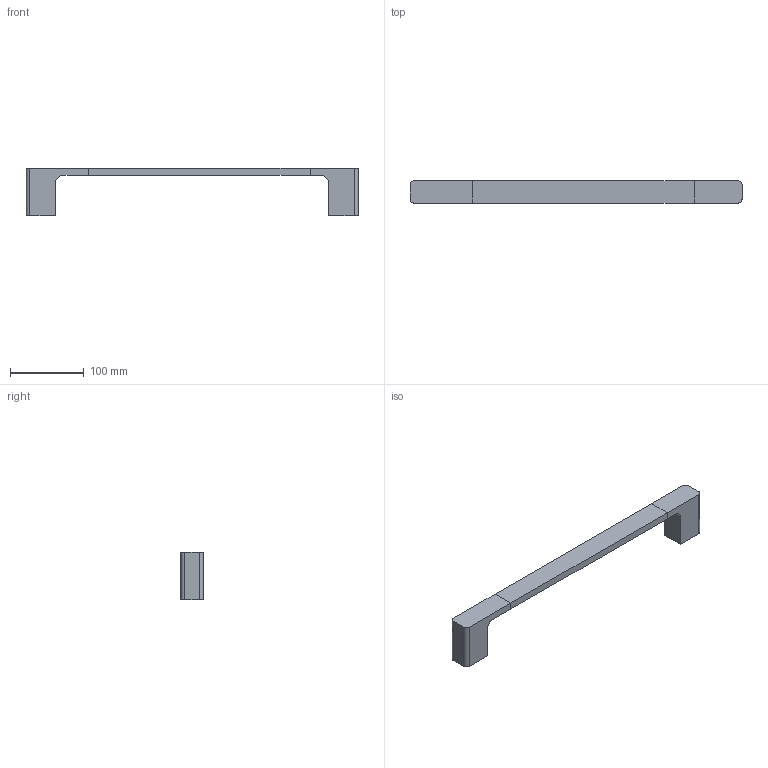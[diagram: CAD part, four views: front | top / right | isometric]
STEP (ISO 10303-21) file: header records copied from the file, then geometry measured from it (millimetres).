
FILE_DESCRIPTION(('FreeCAD Model'),'2;1');
FILE_NAME('Open CASCADE Shape Model','2024-08-10T18:53:45',('Author'),( ''),'Open CASCADE STEP processor 7.6','FreeCAD','Unknown');
FILE_SCHEMA(('AUTOMOTIVE_DESIGN { 1 0 10303 214 1 1 1 1 }'));
Length unit declared in the file: millimetre
Products named in the file (4): TopLevelAssembly; Połączona geometria bryłowa; Połączona geometria bryłowa001; Wyciąganie001
Assembly tree (3 placements, depth 2):
  TopLevelAssembly
    Połączona geometria bryłowa
    Połączona geometria bryłowa001
    Wyciąganie001
Bounding box: 450 x 30 x 65 mm (x, y, z)
Volume: 266892.7 mm3; surface area: 52427.4 mm2
Topology: 3 solids, 3 shells, 28 faces, 66 edges, 44 vertices
Faces by surface type: plane 22, cylinder 6
Entity records: 894 total; most frequent: CARTESIAN_POINT 142, DIRECTION 142, ORIENTED_EDGE 132, EDGE_CURVE 66, LINE 54, VECTOR 54, AXIS2_PLACEMENT_3D 44, VERTEX_POINT 44
